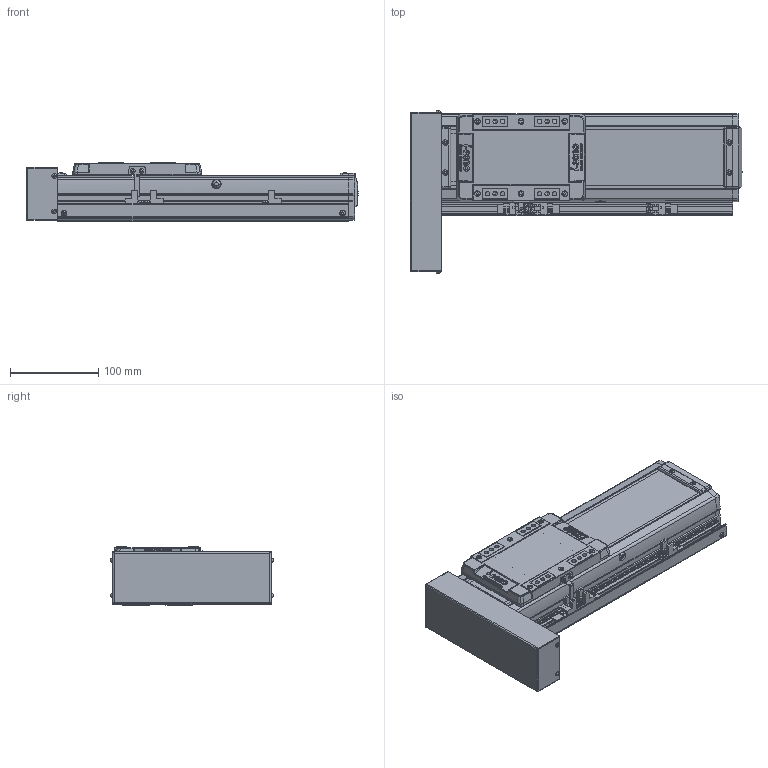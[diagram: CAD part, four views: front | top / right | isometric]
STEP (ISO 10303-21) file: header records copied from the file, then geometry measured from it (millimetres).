
FILE_DESCRIPTION(('STEP AP214'),'1');
FILE_NAME('Z:/Web/3D/SAN100/SAN100 양산용 (STEP)/SAN100ㅁㅁ-150PR+3SR.stp','2013-04-24T07:52:02',(' '),(' '),'Spatial InterOp 3D',' ',' ');
FILE_SCHEMA(('automotive_design'));
Length unit declared in the file: millimetre
Products named in the file (47): BTCV-SAN65; BHCS M3 X 6L; SUS COVER; SFX-SAN100; RRCV-SAN100; 스크루 : Round - M4.0 x 10.0; M3.0 x 6.0; 스크루 : Round - M3.0 x 6.0; FRBL-SAN100; SLBL-SAN100; SLCV-SAN100; 스크루 : Countersunk - M3.0 x 6.0; BASE; 스크루 : Round - M5.0 x 6.0; EE-SX674; SBK-SX674-352; SRL-16x17-380L; SGD-SAN100
Bounding box: 376.5 x 184.13 x 66 mm (x, y, z)
Volume: 1464077.7 mm3; surface area: 375332.4 mm2
Topology: 47 solids, 48 shells, 2271 faces, 5914 edges, 3835 vertices
Faces by surface type: plane 1254, cylinder 749, cone 174, sphere 60, torus 18, bspline 16
Entity records: 89384 total; most frequent: CARTESIAN_POINT 13177, DIRECTION 12425, ORIENTED_EDGE 11680, EDGE_CURVE 5840, AXIS2_PLACEMENT_3D 4352, VERTEX_POINT 3835, LINE 3721, VECTOR 3721
